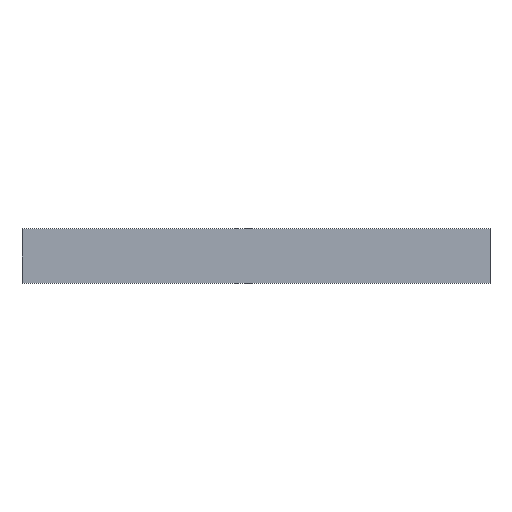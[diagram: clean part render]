
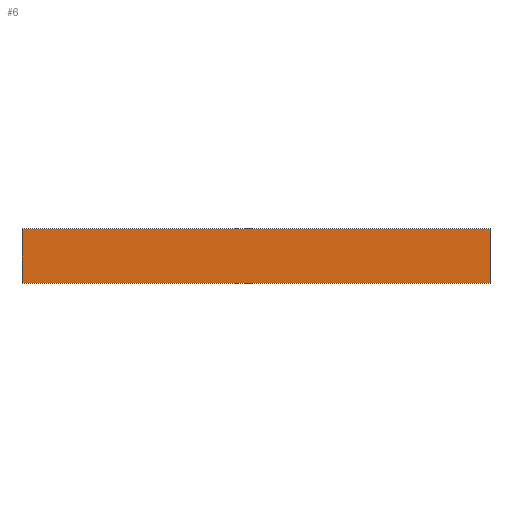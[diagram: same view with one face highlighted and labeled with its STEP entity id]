
A CAD part, top view. The second image highlights one B-rep face of the part: STEP entity #6.
In plain terms, the highlighted planar face has unit normal (0, 0, 1).
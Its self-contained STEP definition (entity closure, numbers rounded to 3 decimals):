
#6 = ADVANCED_FACE ( 'NONE', ( #137 ), #14, .F. ) ;
#14 = PLANE ( 'NONE',  #196 ) ;
#17 = CARTESIAN_POINT ( 'NONE',  ( -257.5, 30., 2. ) ) ;
#23 = DIRECTION ( 'NONE',  ( 0., 0., -1. ) ) ;
#24 = DIRECTION ( 'NONE',  ( -1., 0., 0. ) ) ;
#26 = CARTESIAN_POINT ( 'NONE',  ( 257.5, -30., 2. ) ) ;
#28 = CARTESIAN_POINT ( 'NONE',  ( -257.5, 30., 2. ) ) ;
#29 = CARTESIAN_POINT ( 'NONE',  ( -257.5, -30., 2. ) ) ;
#30 = CARTESIAN_POINT ( 'NONE',  ( 257.5, 30., 2. ) ) ;
#39 = CARTESIAN_POINT ( 'NONE',  ( -257.5, -30., 2. ) ) ;
#43 = DIRECTION ( 'NONE',  ( 1., 0., 0. ) ) ;
#54 = VERTEX_POINT ( 'NONE', #26 ) ;
#57 = VERTEX_POINT ( 'NONE', #28 ) ;
#58 = VERTEX_POINT ( 'NONE', #29 ) ;
#59 = VERTEX_POINT ( 'NONE', #30 ) ;
#93 = DIRECTION ( 'NONE',  ( 0., -1., 0. ) ) ;
#95 = CARTESIAN_POINT ( 'NONE',  ( -257.5, -30., 2. ) ) ;
#96 = CARTESIAN_POINT ( 'NONE',  ( -257.5, 30., 2. ) ) ;
#98 = DIRECTION ( 'NONE',  ( 0., 1., 0. ) ) ;
#99 = DIRECTION ( 'NONE',  ( -1., 0., 0. ) ) ;
#100 = CARTESIAN_POINT ( 'NONE',  ( 257.5, -30., 2. ) ) ;
#114 = LINE ( 'NONE', #95, #128 ) ;
#123 = ORIENTED_EDGE ( 'NONE', *, *, #179, .T. ) ;
#124 = ORIENTED_EDGE ( 'NONE', *, *, #193, .T. ) ;
#126 = ORIENTED_EDGE ( 'NONE', *, *, #197, .T. ) ;
#128 = VECTOR ( 'NONE', #93, 1000. ) ;
#129 = ORIENTED_EDGE ( 'NONE', *, *, #195, .T. ) ;
#137 = FACE_OUTER_BOUND ( 'NONE', #159, .T. ) ;
#144 = VECTOR ( 'NONE', #43, 1000. ) ;
#152 = LINE ( 'NONE', #39, #144 ) ;
#153 = LINE ( 'NONE', #100, #158 ) ;
#155 = LINE ( 'NONE', #96, #160 ) ;
#158 = VECTOR ( 'NONE', #98, 1000. ) ;
#159 = EDGE_LOOP ( 'NONE', ( #126, #123, #124, #129 ) ) ;
#160 = VECTOR ( 'NONE', #99, 1000. ) ;
#179 = EDGE_CURVE ( 'NONE', #58, #54, #152, .T. ) ;
#193 = EDGE_CURVE ( 'NONE', #54, #59, #153, .T. ) ;
#195 = EDGE_CURVE ( 'NONE', #59, #57, #155, .T. ) ;
#196 = AXIS2_PLACEMENT_3D ( 'NONE', #17, #23, #24 ) ;
#197 = EDGE_CURVE ( 'NONE', #57, #58, #114, .T. ) ;
